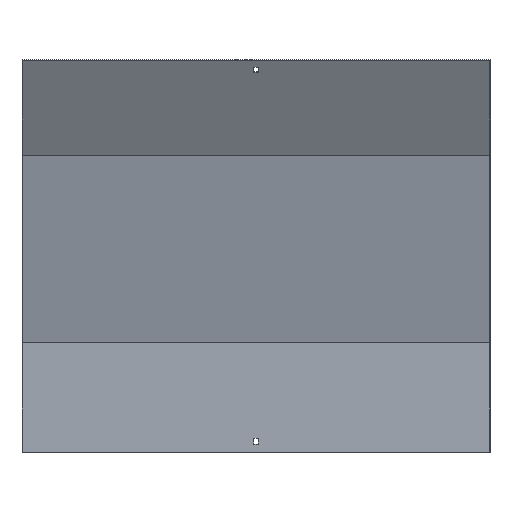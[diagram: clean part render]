
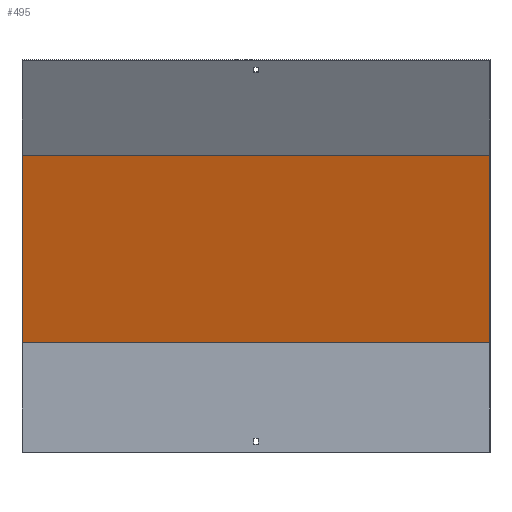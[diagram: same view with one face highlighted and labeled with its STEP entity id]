
A CAD part, front view. The second image highlights one B-rep face of the part: STEP entity #495.
In plain terms, the highlighted planar face has unit normal (0, -0.966, -0.259).
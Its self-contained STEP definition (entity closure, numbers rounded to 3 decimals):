
#45 = EDGE_CURVE ( 'NONE', #267, #108, #642, .T. ) ;
#54 = CARTESIAN_POINT ( 'NONE',  ( -350., 58.62, 15.707 ) ) ;
#60 = DIRECTION ( 'NONE',  ( 0., -0.259, 0.966 ) ) ;
#73 = CARTESIAN_POINT ( 'NONE',  ( 351.5, 17.87, 167.788 ) ) ;
#82 = DIRECTION ( 'NONE',  ( 0., -0.966, -0.259 ) ) ;
#90 = CARTESIAN_POINT ( 'NONE',  ( 350., 18.5, 165.436 ) ) ;
#97 = ORIENTED_EDGE ( 'NONE', *, *, #354, .T. ) ;
#108 = VERTEX_POINT ( 'NONE', #469 ) ;
#180 = AXIS2_PLACEMENT_3D ( 'NONE', #73, #82, #271 ) ;
#227 = LINE ( 'NONE', #499, #792 ) ;
#244 = CARTESIAN_POINT ( 'NONE',  ( 350., 58.62, 15.707 ) ) ;
#267 = VERTEX_POINT ( 'NONE', #547 ) ;
#271 = DIRECTION ( 'NONE',  ( 0., 0.259, -0.966 ) ) ;
#312 = LINE ( 'NONE', #244, #451 ) ;
#324 = CARTESIAN_POINT ( 'NONE',  ( 351.5, -56.524, 445.43 ) ) ;
#354 = EDGE_CURVE ( 'NONE', #843, #108, #583, .T. ) ;
#423 = CARTESIAN_POINT ( 'NONE',  ( 350., -56.524, 445.43 ) ) ;
#433 = EDGE_CURVE ( 'NONE', #723, #843, #312, .T. ) ;
#436 = DIRECTION ( 'NONE',  ( -1., 0., 0. ) ) ;
#451 = VECTOR ( 'NONE', #515, 1000. ) ;
#469 = CARTESIAN_POINT ( 'NONE',  ( -350., -56.524, 445.43 ) ) ;
#481 = ORIENTED_EDGE ( 'NONE', *, *, #433, .T. ) ;
#495 = ADVANCED_FACE ( 'NONE', ( #737 ), #664, .T. ) ;
#499 = CARTESIAN_POINT ( 'NONE',  ( 351.5, 18.5, 165.436 ) ) ;
#515 = DIRECTION ( 'NONE',  ( 0., -0.259, 0.966 ) ) ;
#547 = CARTESIAN_POINT ( 'NONE',  ( -350., 18.5, 165.436 ) ) ;
#573 = ORIENTED_EDGE ( 'NONE', *, *, #686, .F. ) ;
#583 = LINE ( 'NONE', #324, #845 ) ;
#612 = VECTOR ( 'NONE', #60, 1000. ) ;
#642 = LINE ( 'NONE', #54, #612 ) ;
#644 = EDGE_LOOP ( 'NONE', ( #773, #573, #481, #97 ) ) ;
#664 = PLANE ( 'NONE',  #180 ) ;
#686 = EDGE_CURVE ( 'NONE', #723, #267, #227, .T. ) ;
#723 = VERTEX_POINT ( 'NONE', #90 ) ;
#724 = DIRECTION ( 'NONE',  ( -1., 0., 0. ) ) ;
#737 = FACE_OUTER_BOUND ( 'NONE', #644, .T. ) ;
#773 = ORIENTED_EDGE ( 'NONE', *, *, #45, .F. ) ;
#792 = VECTOR ( 'NONE', #436, 1000. ) ;
#843 = VERTEX_POINT ( 'NONE', #423 ) ;
#845 = VECTOR ( 'NONE', #724, 1000. ) ;
